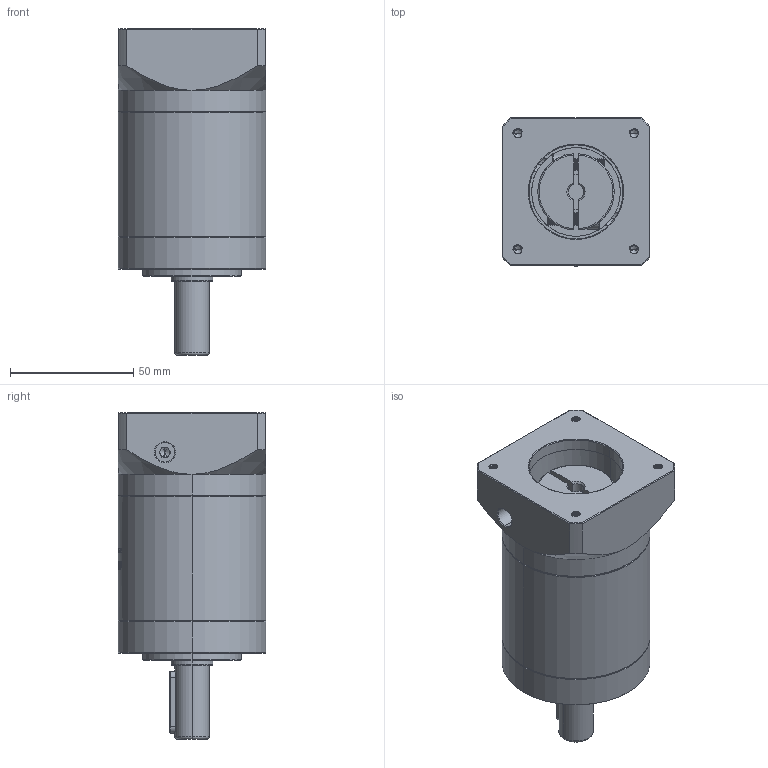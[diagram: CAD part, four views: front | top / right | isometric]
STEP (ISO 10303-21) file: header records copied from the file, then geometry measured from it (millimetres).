
FILE_DESCRIPTION (( 'STEP AP214' ), '1' );
FILE_NAME ('ZE60-D14-L2-6.35-38.1-47.14X47.14-M4.STEP', '2022-04-17T15:06:11', ( '' ), ( 'Microsoft' ), 'SwSTEP 2.0', 'SolidWorks 2016', '' );
FILE_SCHEMA (( 'AUTOMOTIVE_DESIGN' ));
Length unit declared in the file: millimetre
Products named in the file (1): ZE60-D14-L2-6.35-38.1-47.14X47.14-M4
Bounding box: 60 x 60 x 132.5 mm (x, y, z)
Volume: 267873.8 mm3; surface area: 45890.4 mm2
Topology: 6 solids, 6 shells, 1699 faces, 4625 edges, 2998 vertices
Faces by surface type: plane 732, cylinder 423, bspline 311, cone 213, torus 20
Entity records: 99716 total; most frequent: CARTESIAN_POINT 42512, ORIENTED_EDGE 9206, DIRECTION 6556, EDGE_CURVE 4603, VERTEX_POINT 2998, VECTOR 2294, LINE 2294, AXIS2_PLACEMENT_3D 2131
